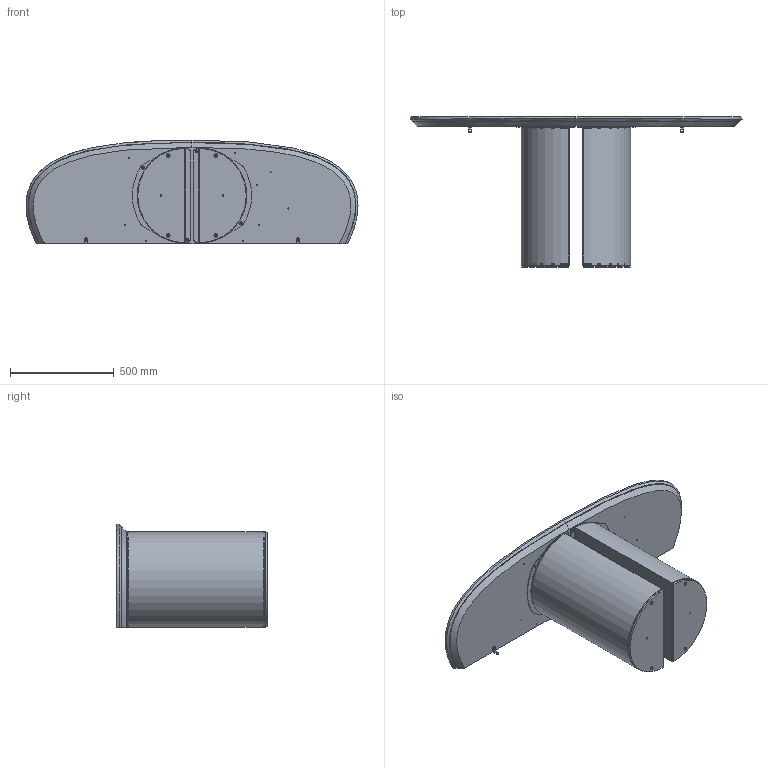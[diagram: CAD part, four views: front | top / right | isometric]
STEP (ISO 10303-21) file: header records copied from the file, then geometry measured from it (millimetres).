
FILE_DESCRIPTION (( 'STEP AP203' ), '1' );
FILE_NAME ('DR60M_Dora Console_160x50x72h_Marble Shaped.STEP', '2024-08-06T09:42:06', ( '' ), ( '' ), 'SwSTEP 2.0', 'SolidWorks 2022', '' );
FILE_SCHEMA (( 'CONFIG_CONTROL_DESIGN' ));
Length unit declared in the file: millimetre
Products named in the file (12): ROC000001PSx-00-CONSOLEE ROTOLO PIASTRA FISSAGGIO_STAFFA CORTA; M6xXXmm_M6x20mm; TRUXXXX-02-NOBILITATO Sasso per console_160x50; DOR000V01PST-00-DORA PIASTRA TELAIO; Assieme Basamento PLAI_Basamento per consolle; M8xXXmm_hex_M8X20mm; M6xXXmm_HEX_M6x20mm HEX; KXXXX-00-piani MARMO Sasso per console_160X50; PLA000000ZOC-01-PLAI ZOCCOLO DELLA BASE; DR60M_Dora Console_160x50x72h_Marble Shaped; PLA000000BAS-00-PLAI BASE GREZZA; KXXXX-00-piani MARMO Sasso per console_160x50
Assembly tree (18 placements, depth 3):
  DR60M_Dora Console_160x50x72h_Marble Shaped
    KXXXX-00-piani MARMO Sasso per console_160X50
      TRUXXXX-02-NOBILITATO Sasso per console_160x50
      KXXXX-00-piani MARMO Sasso per console_160x50
    Assieme Basamento PLAI_Basamento per consolle  x2
      PLA000000BAS-00-PLAI BASE GREZZA
      DOR000V01PST-00-DORA PIASTRA TELAIO
      PLA000000ZOC-01-PLAI ZOCCOLO DELLA BASE
      M8xXXmm_hex_M8X20mm
    M6xXXmm_M6x20mm  x2
    ROC000001PSx-00-CONSOLEE ROTOLO PIASTRA FISSAGGIO_STAFFA CORTA  x2
    M6xXXmm_HEX_M6x20mm HEX  x4
Bounding box: 1600 x 723 x 500 mm (x, y, z)
Volume: 37227724.1 mm3; surface area: 7229409.2 mm2
Topology: 26 solids, 26 shells, 652 faces, 1456 edges, 826 vertices
Faces by surface type: plane 282, cylinder 200, cone 138, torus 24, bspline 8
Entity records: 12497 total; most frequent: CARTESIAN_POINT 4136, DIRECTION 1558, ORIENTED_EDGE 1326, EDGE_CURVE 663, AXIS2_PLACEMENT_3D 613, VERTEX_POINT 404, EDGE_LOOP 359, VECTOR 332
